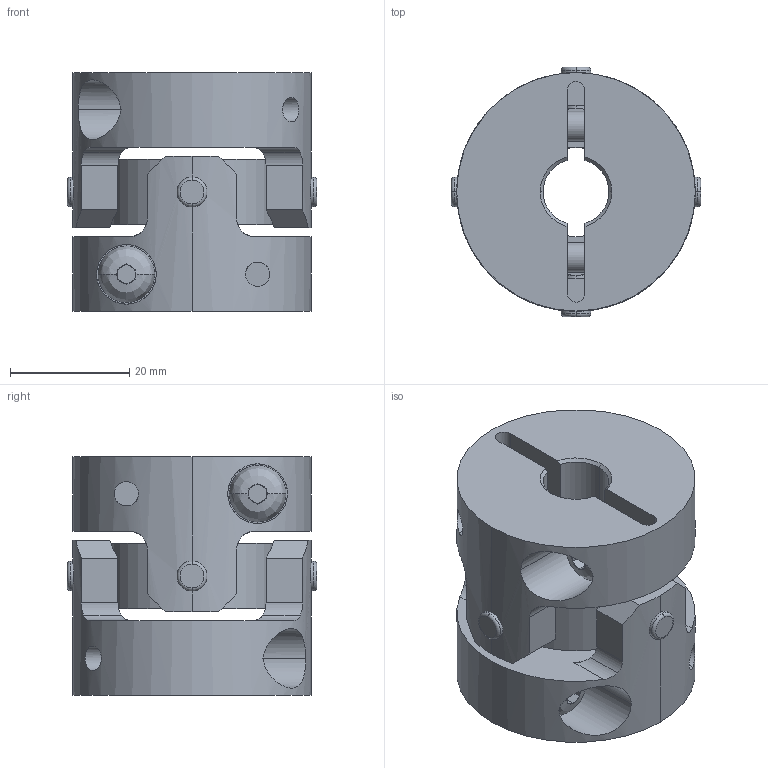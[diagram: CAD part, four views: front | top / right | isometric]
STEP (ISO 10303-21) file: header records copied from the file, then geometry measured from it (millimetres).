
FILE_DESCRIPTION((''),'2;1');
FILE_NAME('UA-40C-11×15.stp','2013-05-22T09:34:46',(''),(''),'AutoCAD STEP 2000i','AutoCAD 2000i',', , ');
FILE_SCHEMA(('CONFIG_CONTROL_DESIGN'));
Length unit declared in the file: millimetre
Products named in the file (6): UA-40C-8×8; 忣兜1; UA-4002-D08-1; BTN-M5; UA-4002-D08; UA40-SEN
Assembly tree (6 placements, depth 3):
  UA-40C-8×8
    忣兜1
    UA-4002-D08-1
      BTN-M5
    UA-4002-D08
      BTN-M5
    UA40-SEN
Bounding box: 41.81 x 41.81 x 40 mm (x, y, z)
Volume: 33451 mm3; surface area: 15530.6 mm2
Topology: 1 solids, 1 shells, 250 faces, 646 edges, 408 vertices
Faces by surface type: plane 122, cylinder 96, cone 16, bspline 8, torus 8
Entity records: 9627 total; most frequent: CARTESIAN_POINT 3371, ORIENTED_EDGE 1292, DIRECTION 1288, EDGE_CURVE 646, AXIS2_PLACEMENT_3D 497, VERTEX_POINT 408, VECTOR 294, LINE 294
